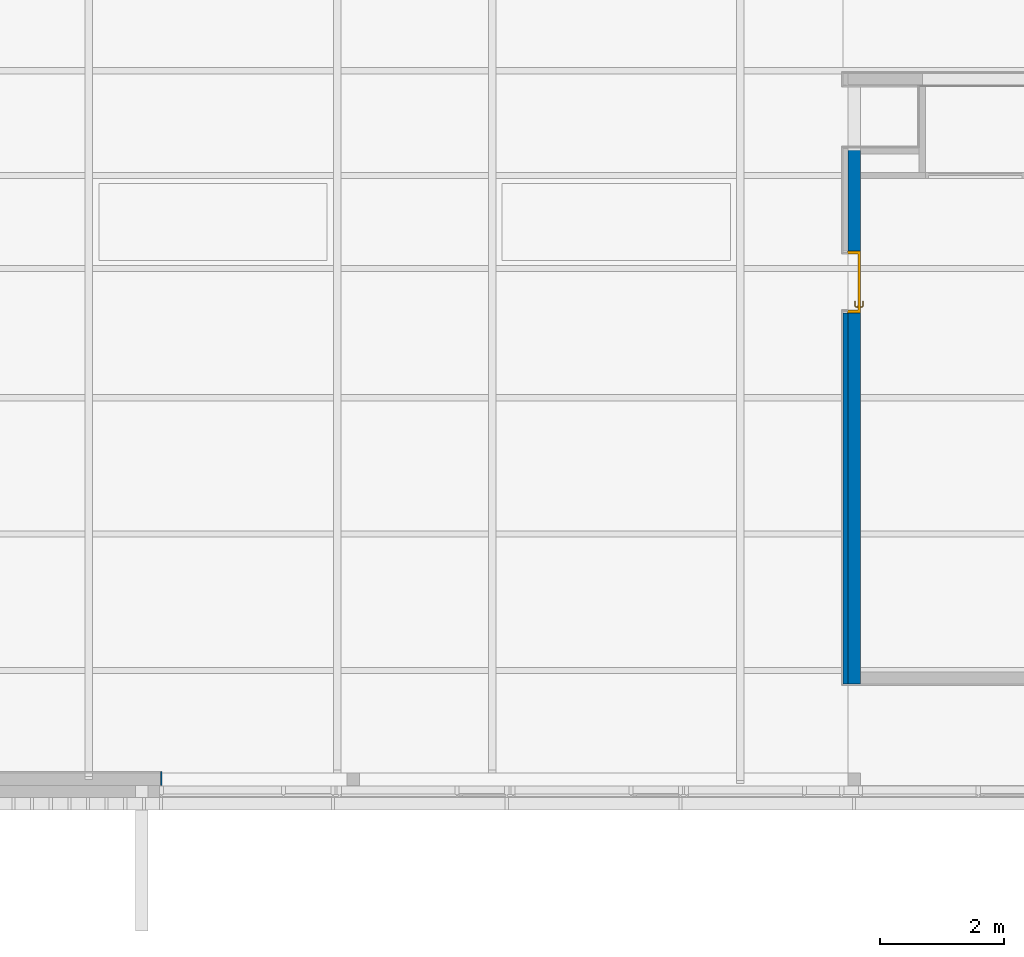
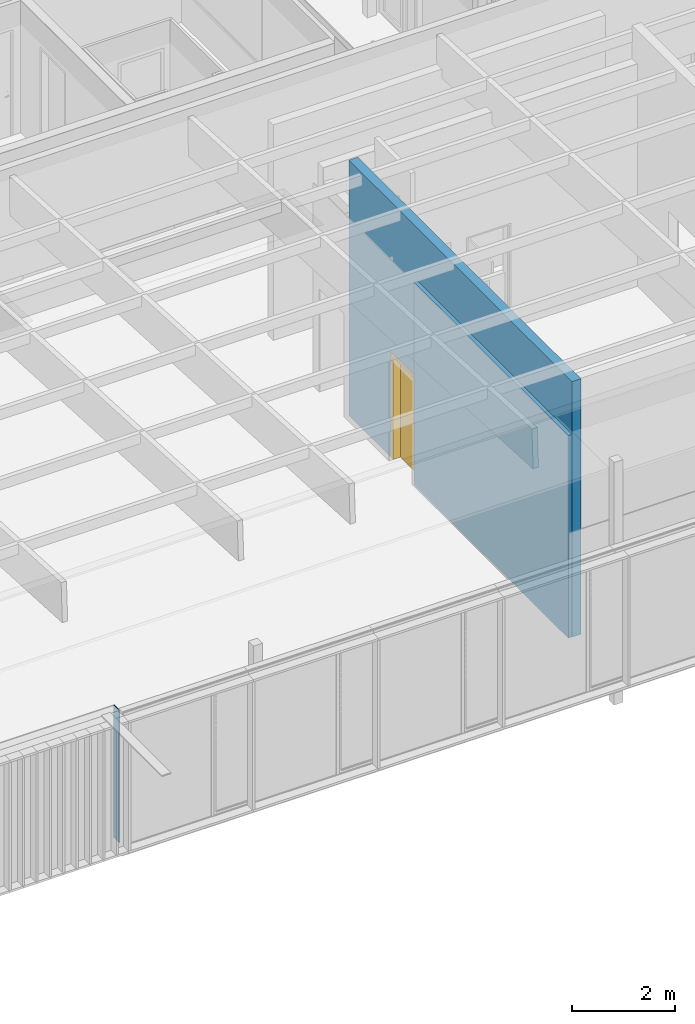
# One storey, part 80 of 240: 3 walls, 1 door, 1 opening.
"""IFC2X3 building model written with IfcOpenShell, lengths in centimetres."""

from ifc_helpers import new_model, entity, si_unit, converted_unit, derived_unit, direction, frame, frame_2d, origin, place, context, subcontext, project, spatial, rectangle, extrude, faceted_brep, source, transform, mapped, material, material_list, layer, layer_set, layer_usage, type_object, type_shapes, element, fill, save


model = new_model("IFC2X3")

# Units and contexts
model_context = context("Model", 3, precision=0.001, world=origin(), true_north=direction((6.12303176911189e-17, 1.0)))
body_context = subcontext(model_context, "Body", "Model", "MODEL_VIEW")
ifc_project = project(units=[si_unit("LENGTHUNIT", "METRE", prefix="CENTI"), si_unit("AREAUNIT", "SQUARE_METRE"), si_unit("VOLUMEUNIT", "CUBIC_METRE"), converted_unit("PLANEANGLEUNIT", "DEGREE", entity("IfcRatioMeasure", 0.0174532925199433), si_unit("PLANEANGLEUNIT", "RADIAN"), dimensions=[0, 0, 0, 0, 0, 0, 0]), si_unit("MASSUNIT", "GRAM", prefix="KILO"), derived_unit("MASSDENSITYUNIT", [(si_unit("MASSUNIT", "GRAM", prefix="KILO"), 1), (si_unit("LENGTHUNIT", "METRE"), -3)]), si_unit("TIMEUNIT", "SECOND"), si_unit("FREQUENCYUNIT", "HERTZ"), si_unit("THERMODYNAMICTEMPERATUREUNIT", "DEGREE_CELSIUS"), derived_unit("THERMALTRANSMITTANCEUNIT", [(si_unit("MASSUNIT", "GRAM", prefix="KILO"), 1), (si_unit("THERMODYNAMICTEMPERATUREUNIT", "KELVIN"), -1), (si_unit("TIMEUNIT", "SECOND"), -3)]), derived_unit("VOLUMETRICFLOWRATEUNIT", [(si_unit("LENGTHUNIT", "METRE"), 3), (si_unit("TIMEUNIT", "SECOND"), -1)]), si_unit("ELECTRICCURRENTUNIT", "AMPERE"), si_unit("ELECTRICVOLTAGEUNIT", "VOLT"), si_unit("POWERUNIT", "WATT"), si_unit("FORCEUNIT", "NEWTON", prefix="KILO"), si_unit("ILLUMINANCEUNIT", "LUX"), si_unit("LUMINOUSFLUXUNIT", "LUMEN"), si_unit("LUMINOUSINTENSITYUNIT", "CANDELA"), derived_unit("USERDEFINED", [(si_unit("MASSUNIT", "GRAM", prefix="KILO"), -1), (si_unit("LENGTHUNIT", "METRE"), -2), (si_unit("TIMEUNIT", "SECOND"), 3), (si_unit("LUMINOUSFLUXUNIT", "LUMEN"), 1)]), derived_unit("LINEARVELOCITYUNIT", [(si_unit("LENGTHUNIT", "METRE"), 1), (si_unit("TIMEUNIT", "SECOND"), -1)]), si_unit("PRESSUREUNIT", "PASCAL"), derived_unit("USERDEFINED", [(si_unit("LENGTHUNIT", "METRE"), -2), (si_unit("MASSUNIT", "GRAM", prefix="KILO"), 1), (si_unit("TIMEUNIT", "SECOND"), -2)])], contexts=[model_context])

# Site, building, storey
site_placement = place(None, frame((-2781.94577612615, 7442.24238424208, 0.0)))
site = spatial("IfcSite", under=ifc_project, at=site_placement, Name="Default", CompositionType="ELEMENT")
building_placement = place(site_placement, origin())
building = spatial("IfcBuilding", under=site, at=building_placement, CompositionType="ELEMENT")
storey_placement = place(building_placement, origin())
storey = spatial("IfcBuildingStorey", under=building, at=storey_placement, Name="N00 - COO", CompositionType="ELEMENT", Elevation=0.0)

# Wall, opening, door
ifc_material_1 = material(Name="01 - Maçonnerie")
ifc_layer_1 = layer(ifc_material_1, 20.0)
ifc_layer_set_1 = layer_set([ifc_layer_1], Name="Mur de base:04 - Structure - béton - 20cm")
ifc_layer_usage_1 = layer_usage(ifc_layer_set_1, "AXIS2", "NEGATIVE", 10.0)
wall_type_1 = type_object("IfcWallType", Name="Mur de base:04 - Structure - béton - 20cm", PredefinedType="STANDARD", material=ifc_layer_set_1)
wall_1_placement = place(building_placement, frame((-9614.98738089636, -5383.50027342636, 0.0), z_axis=(0.0, 0.0, 1.0), x_axis=(0.0, 1.0, 0.0)))
wall_1 = element("IfcWallStandardCase", 1, at=wall_1_placement, inside=storey, type_object=wall_type_1, material=ifc_layer_usage_1, Name="Mur de base:04 - Structure - béton - 20cm", ObjectType="Mur de base:04 - Structure - béton - 20cm", context=body_context, shape_type="SweptSolid", body=[
    extrude(rectangle(XDim=865.000000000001, YDim=19.9999999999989, at=frame_2d((432.5, 0.0), x_axis=(-1.0, 0.0))), origin(), (0.0, 0.0, 1.0), 604.608853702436),
])
opening_placement = place(wall_1_placement, frame((698.537766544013, 10.0, 0.0)))
opening = element("IfcOpeningElement", 2, at=opening_placement, cuts=wall_1, Name="Int. Simple:PP (0.93m x 2.50m):1", ObjectType="Opening", context=body_context, shape_type="SweptSolid", body=[
    extrude(rectangle(XDim=248.500000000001, YDim=99.9999999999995, at=frame_2d((124.250000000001, 50.0), x_axis=(1.0, 0.0))), frame((0.0, 0.0, 0.0), z_axis=(0.0, -1.0, 0.0), x_axis=(0.0, 0.0, 1.0)), (0.0, 0.0, 1.0), 20.0),
])
ifc_material_2 = material(Name="Finition Peinture - Blanc satiné")
ifc_material_3 = material(Name="Bois - Panneau de porte")
ifc_material_4 = material(Name="Bois - Cadre de porte")
ifc_material_list_1 = material_list([ifc_material_2, ifc_material_3, ifc_material_4])
ifc_material_list_2 = material_list([ifc_material_2, ifc_material_3, ifc_material_4])
door_style = type_object("IfcDoorStyle", Name="PP (0.93m x 2.50m)", ConstructionType="NOTDEFINED", OperationType="SINGLE_SWING_LEFT", ParameterTakesPrecedence=False, Sizeable=False, material=ifc_material_list_2)
shared_shape = source(origin(), body_context, "Body", "Brep", [
    faceted_brep([(10.5352761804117, -0.500000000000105, 86.6003983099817), (11.5000000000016, -0.500000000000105, 87.0), (11.5000000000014, -0.500000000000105, 108.0), (10.5352761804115, -0.500000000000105, 108.399601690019), (9.50000000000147, -0.500000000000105, 108.535898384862), (8.46472381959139, -0.500000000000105, 108.399601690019), (7.50000000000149, -0.500000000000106, 108.0), (7.50000000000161, -0.500000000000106, 87.0), (8.46472381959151, -0.500000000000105, 86.6003983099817), (9.50000000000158, -0.500000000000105, 86.464101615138), (10.5352761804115, 0.0, 108.399601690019), (11.5000000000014, 0.0, 108.0), (11.5000000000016, 0.0, 87.0), (10.5352761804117, 0.0, 86.6003983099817), (9.50000000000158, 0.0, 86.464101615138), (8.46472381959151, 0.0, 86.6003983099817), (7.50000000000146, 0.0, 87.0), (7.50000000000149, 0.0, 108.0), (8.46472381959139, 0.0, 108.399601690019), (9.50000000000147, 0.0, 108.535898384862)], [[[0, 1, 2, 3, 4, 5, 6, 7, 8, 9]], [[10, 11, 12, 13, 14, 15, 16, 17, 18, 19]], [[16, 15, 8, 7]], [[8, 15, 14, 9]], [[14, 13, 0, 9]], [[13, 12, 1, 0]], [[2, 1, 12, 11]], [[11, 10, 3, 2]], [[3, 10, 19, 4]], [[19, 18, 5, 4]], [[18, 17, 6, 5]], [[7, 6, 17, 16]]]),
    faceted_brep([(10.5352761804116, 4.0, 86.6003983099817), (11.5000000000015, 4.0, 87.0), (11.5000000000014, 4.0, 108.0), (10.5352761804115, 4.0, 108.399601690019), (9.50000000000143, 4.0, 108.535898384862), (8.46472381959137, 4.0, 108.399601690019), (7.50000000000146, 4.0, 108.0), (7.50000000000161, 4.0, 87.0), (8.46472381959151, 4.0, 86.6003983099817), (9.50000000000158, 4.0, 86.464101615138), (10.5352761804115, 4.49999999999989, 108.399601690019), (11.5000000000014, 4.49999999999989, 108.0), (11.5000000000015, 4.49999999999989, 87.0), (10.5352761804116, 4.49999999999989, 86.6003983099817), (9.50000000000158, 4.49999999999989, 86.464101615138), (8.46472381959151, 4.49999999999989, 86.6003983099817), (7.50000000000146, 4.49999999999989, 87.0), (7.50000000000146, 4.49999999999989, 108.0), (8.46472381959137, 4.49999999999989, 108.399601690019), (9.50000000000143, 4.49999999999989, 108.535898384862)], [[[0, 1, 2, 3, 4, 5, 6, 7, 8, 9]], [[10, 11, 12, 13, 14, 15, 16, 17, 18, 19]], [[11, 10, 3, 2]], [[3, 10, 19, 4]], [[19, 18, 5, 4]], [[18, 17, 6, 5]], [[7, 6, 17, 16]], [[16, 15, 8, 7]], [[8, 15, 14, 9]], [[14, 13, 0, 9]], [[13, 12, 1, 0]], [[2, 1, 12, 11]]]),
    faceted_brep([(9.29747013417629, -0.500000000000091, 100.778044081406), (9.70252986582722, -0.500000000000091, 100.778044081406), (10.1000000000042, -0.500000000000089, 100.699999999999), (10.1000000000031, -0.500000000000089, 99.3000000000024), (9.7025298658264, -0.500000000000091, 99.2219559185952), (9.29747013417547, -0.500000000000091, 99.221955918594), (8.8999999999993, -0.500000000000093, 99.2999999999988), (8.89999999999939, -0.500000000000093, 100.7), (8.89999999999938, -3.26509507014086, 100.7), (9.29747013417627, -3.10045754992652, 100.778044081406), (10.9023585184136, -4.70534593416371, 100.778044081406), (11.0701397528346, -4.30028620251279, 100.778044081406), (9.7025298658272, -2.93267631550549, 100.778044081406), (10.1000000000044, -2.76803879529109, 100.7), (10.1000000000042, -2.76803879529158, 99.3000000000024), (9.7025298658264, -2.93267631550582, 99.2219559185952), (11.0701397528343, -4.30028620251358, 99.2219559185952), (10.9023585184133, -4.70534593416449, 99.221955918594), (9.29747013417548, -3.10045754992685, 99.221955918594), (8.89999999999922, -3.26509507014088, 99.2999999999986), (10.7377209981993, -5.10281606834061, 100.7), (11.2347772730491, -3.90281606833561, 100.7), (11.2347772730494, -3.90281606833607, 99.3000000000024), (10.7377209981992, -5.10281606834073, 99.2999999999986), (19.5018640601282, -5.1028160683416, 99.2999999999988), (19.5018640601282, -4.70534593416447, 99.221955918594), (19.5018640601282, -4.30028620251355, 99.2219559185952), (19.5018640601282, -3.90281606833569, 99.3000000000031), (19.5018640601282, -3.90281606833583, 100.7), (19.5018640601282, -4.30028620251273, 100.778044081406), (19.5018640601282, -4.70534593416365, 100.778044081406), (19.5018640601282, -5.10281606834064, 100.699999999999), (14.7307697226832, -5.10281606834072, 100.7), (15.2860019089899, -4.5028160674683, 100.78786867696), (15.3683206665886, -3.9028160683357, 100.7), (15.3683206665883, -3.90281606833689, 99.3000000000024), (15.2860018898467, -4.50281607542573, 99.2121313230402), (14.7307700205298, -5.10281606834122, 99.2999999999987)], [[[0, 1, 2, 3, 4, 5, 6, 7]], [[8, 9, 0, 7]], [[9, 10, 11, 12, 1, 0]], [[12, 13, 2, 1]], [[3, 2, 13, 14]], [[14, 15, 4, 3]], [[15, 16, 17, 18, 5, 4]], [[18, 19, 6, 5]], [[7, 6, 19, 8]], [[20, 10, 9, 8]], [[11, 21, 13, 12]], [[14, 13, 21, 22]], [[22, 16, 15, 14]], [[17, 23, 19, 18]], [[8, 19, 23, 20]], [[24, 25, 26, 27, 28, 29, 30, 31]], [[32, 30, 33]], [[31, 30, 32]], [[10, 20, 32]], [[33, 34, 11]], [[21, 11, 34]], [[34, 29, 28]], [[30, 29, 33]], [[29, 34, 33]], [[10, 32, 33]], [[10, 33, 11]], [[22, 21, 34, 28, 27, 35]], [[35, 26, 36]], [[37, 36, 25]], [[22, 35, 16]], [[35, 27, 26]], [[24, 37, 25]], [[23, 17, 37]], [[37, 17, 36]], [[17, 16, 36]], [[16, 35, 36]], [[25, 36, 26]], [[20, 23, 37, 24, 31, 32]]]),
    faceted_brep([(9.29747013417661, 4.49999999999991, 100.778044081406), (8.89999999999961, 4.4999999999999, 100.7), (8.89999999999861, 4.4999999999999, 99.2999999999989), (9.29747013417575, 4.49999999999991, 99.221955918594), (9.70252986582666, 4.49999999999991, 99.2219559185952), (10.1000000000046, 4.49999999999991, 99.3000000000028), (10.1000000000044, 4.49999999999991, 100.7), (9.70252986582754, 4.49999999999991, 100.778044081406), (10.1000000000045, 6.7485204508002, 99.3000000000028), (10.1000000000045, 6.74852045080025, 100.7), (9.70252986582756, 6.91315797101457, 100.778044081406), (11.083890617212, 8.29451872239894, 100.778044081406), (10.916109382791, 8.69957845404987, 100.778044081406), (9.29747013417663, 7.0809392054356, 100.778044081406), (8.89999999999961, 7.24557672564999, 100.7), (8.89999999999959, 7.2455767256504, 99.2999999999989), (9.29747013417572, 7.08093920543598, 99.221955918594), (10.9161093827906, 8.69957845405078, 99.221955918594), (11.0838906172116, 8.29451872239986, 99.2219559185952), (9.70252986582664, 6.91315797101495, 99.2219559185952), (11.2485281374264, 7.89704858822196, 99.3000000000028), (11.2485281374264, 7.89704858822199, 100.7), (10.7514718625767, 9.09704858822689, 100.7), (10.7514718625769, 9.0970485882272, 99.2999999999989), (19.5045783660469, 7.89704858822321, 99.3000000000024), (19.5045783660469, 8.29451872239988, 99.2219559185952), (19.5045783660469, 8.6995784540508, 99.221955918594), (19.5045783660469, 9.09704858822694, 99.2999999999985), (19.5045783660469, 9.09704858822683, 100.7), (19.5045783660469, 8.69957845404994, 100.778044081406), (19.5045783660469, 8.29451872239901, 100.778044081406), (19.5045783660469, 7.89704858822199, 100.7), (15.3765520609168, 7.89704858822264, 99.3000000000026), (15.3765532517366, 7.89704858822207, 100.7), (15.294234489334, 8.49704858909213, 100.78786867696), (14.7445205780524, 9.09704858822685, 100.7), (14.7445204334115, 9.09704858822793, 99.2999999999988), (15.2942345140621, 8.49704858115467, 99.2121313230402)], [[[0, 1, 2, 3, 4, 5, 6, 7]], [[6, 5, 8, 9]], [[9, 10, 7, 6]], [[10, 11, 12, 13, 0, 7]], [[13, 14, 1, 0]], [[2, 1, 14, 15]], [[15, 16, 3, 2]], [[16, 17, 18, 19, 4, 3]], [[19, 8, 5, 4]], [[9, 8, 20, 21]], [[21, 11, 10, 9]], [[12, 22, 14, 13]], [[15, 14, 22, 23]], [[23, 17, 16, 15]], [[18, 20, 8, 19]], [[24, 25, 26, 27, 28, 29, 30, 31]], [[21, 20, 32, 24, 31, 33]], [[33, 30, 34]], [[35, 34, 29]], [[21, 33, 11]], [[33, 31, 30]], [[28, 35, 29]], [[22, 12, 35]], [[35, 12, 34]], [[12, 11, 34]], [[11, 33, 34]], [[29, 34, 30]], [[22, 35, 28, 27, 36, 23]], [[36, 26, 37]], [[27, 26, 36]], [[17, 23, 36]], [[37, 32, 18]], [[20, 18, 32]], [[32, 25, 24]], [[26, 25, 37]], [[25, 32, 37]], [[17, 36, 37]], [[17, 37, 18]]]),
    faceted_brep([(3.50000000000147, 4.0, 245.0), (96.5000000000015, 4.0, 245.0), (96.5000000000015, 4.0, 0.0), (3.50000000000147, 4.0, 0.0), (3.50000000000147, 0.0, 245.0), (3.50000000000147, 0.0, 0.0), (96.5000000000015, 0.0, 0.0), (96.5000000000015, 0.0, 245.0)], [[[0, 1, 2, 3]], [[4, 5, 6, 7]], [[1, 0, 4, 7]], [[2, 1, 7, 6]], [[3, 2, 6, 5]], [[0, 3, 5, 4]]]),
    faceted_brep([(0.0, 20.0, 0.0), (-1.50000000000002, 20.0, 0.0), (-1.50000000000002, 20.5000000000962, 0.0), (5.0, 20.5000000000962, 0.0), (5.0, 4.0, 0.0), (3.50000000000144, 4.0, 0.0), (3.50000000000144, -0.500000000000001, 0.0), (-1.50000000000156, -0.500000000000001, 0.0), (-1.50000000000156, 0.0, 0.0), (0.0, 0.0, 0.0), (0.0, 20.0, 248.500000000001), (100.0, 20.0, 248.500000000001), (100.0, 20.0, 0.0), (101.5, 20.0, 0.0), (101.5, 20.0, 250.0), (-1.50000000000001, 20.0, 250.0), (-1.50000000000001, 20.5000000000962, 250.0), (101.5, 20.5000000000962, 250.0), (101.5, 20.5000000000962, 0.0), (95.0, 20.5000000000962, 0.0), (95.0, 20.5000000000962, 243.5), (5.0, 20.5000000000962, 243.5), (5.0, 4.0, 243.5), (95.0, 4.0, 243.5), (95.0, 4.0, 0.0), (96.499999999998, 4.0, 0.0), (96.499999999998, 4.0, 245.0), (3.50000000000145, 4.0, 245.0), (3.50000000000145, -0.500000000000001, 245.0), (96.499999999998, -0.500000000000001, 245.0), (96.499999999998, -0.500000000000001, 0.0), (101.500000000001, -0.500000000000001, 0.0), (101.500000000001, -0.500000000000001, 250.0), (-1.50000000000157, -0.500000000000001, 250.0), (-1.50000000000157, 0.0, 250.0), (101.500000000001, 0.0, 250.0), (101.500000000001, 0.0, 0.0), (100.0, 0.0, 0.0), (100.0, 0.0, 248.500000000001), (0.0, 0.0, 248.500000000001)], [[[0, 1, 2, 3, 4, 5, 6, 7, 8, 9]], [[1, 0, 10, 11, 12, 13, 14, 15]], [[2, 1, 15, 16]], [[3, 2, 16, 17, 18, 19, 20, 21]], [[3, 21, 22, 4]], [[5, 4, 22, 23, 24, 25, 26, 27]], [[5, 27, 28, 6]], [[7, 6, 28, 29, 30, 31, 32, 33]], [[8, 7, 33, 34]], [[9, 8, 34, 35, 36, 37, 38, 39]], [[0, 9, 39, 10]], [[11, 38, 37, 12]], [[12, 37, 36, 31, 30, 25, 24, 19, 18, 13]], [[17, 14, 13, 18]], [[23, 20, 19, 24]], [[29, 26, 25, 30]], [[35, 32, 31, 36]], [[16, 15, 14, 17]], [[22, 21, 20, 23]], [[28, 27, 26, 29]], [[34, 33, 32, 35]], [[10, 39, 38, 11]]]),
])
type_shapes(door_style, [shared_shape])
door_placement = place(opening_placement, frame((-100.0, -20.0, 0.0)))
door = element("IfcDoor", 3, at=door_placement, inside=storey, type_object=door_style, material=ifc_material_list_1, Name="Int. Simple:PP (0.93m x 2.50m)", ObjectType="Int. Simple:PP (0.93m x 2.50m)", OverallHeight=248.500000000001, OverallWidth=99.9999999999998, context=body_context, shape_type="MappedRepresentation", body=[
    mapped(shared_shape, transform((0.0, 0.0, 0.0), scale=1.0)),
])
fill(opening, door)

# Walls
ifc_material_5 = material(Name="CP bouleau perforé")
ifc_layer_2 = layer(ifc_material_5, 2.0)
ifc_layer_set_2 = layer_set([ifc_layer_2], Name="Mur de base:06 - habillage bois collée 2cm perforé")
ifc_layer_usage_2 = layer_usage(ifc_layer_set_2, "AXIS2", "NEGATIVE", 1.0)
wall_type_2 = type_object("IfcWallType", Name="Mur de base:06 - habillage bois collée 2cm perforé", PredefinedType="STANDARD", material=ifc_layer_set_2)
wall_2_placement = place(storey_placement, frame((-10731.8167461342, -5546.50173441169, 0.0), z_axis=(0.0, 0.0, 1.0), x_axis=(0.0, 1.0, 0.0)))
element("IfcWallStandardCase", 4, at=wall_2_placement, inside=storey, type_object=wall_type_2, material=ifc_layer_usage_2, Name="Mur de base:06 - habillage bois collée 2cm perforé", ObjectType="Mur de base:06 - habillage bois collée 2cm perforé", context=body_context, shape_type="SweptSolid", body=[
    extrude(rectangle(XDim=22.0000000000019, YDim=1.99999999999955, at=frame_2d((11.000000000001, 5.16253706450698e-15), x_axis=(-1.0, 0.0))), origin(), (0.0, 0.0, 1.0), 312.999999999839),
])
ifc_material_6 = material(Name="00 - Isolant")
ifc_layer_3 = layer(ifc_material_6, 8.0)
ifc_layer_set_3 = layer_set([ifc_layer_3], Name="Mur de base:04 - Parement - Isolant acoustique 8cm")
ifc_layer_usage_3 = layer_usage(ifc_layer_set_3, "AXIS2", "NEGATIVE", 4.0)
wall_type_3 = type_object("IfcWallType", Name="Mur de base:04 - Parement - Isolant acoustique 8cm", PredefinedType="STANDARD", material=ifc_layer_set_3)
wall_3_placement = place(building_placement, frame((-9628.98738089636, -5383.00027342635, 0.0), z_axis=(0.0, 0.0, 1.0), x_axis=(0.0, 1.0, 0.0)))
element("IfcWallStandardCase", 5, at=wall_3_placement, inside=storey, type_object=wall_type_3, material=ifc_layer_usage_3, Name="Mur de base:04 - Parement - Isolant acoustique 8cm", ObjectType="Mur de base:04 - Parement - Isolant acoustique 8cm", context=body_context, shape_type="SweptSolid", body=[
    extrude(rectangle(XDim=598.037766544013, YDim=8.00000000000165, at=frame_2d((299.018883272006, 0.0), x_axis=(-1.0, 0.0))), origin(), (0.0, 0.0, 1.0), 480.0),
])

save(model, "model.ifc")
